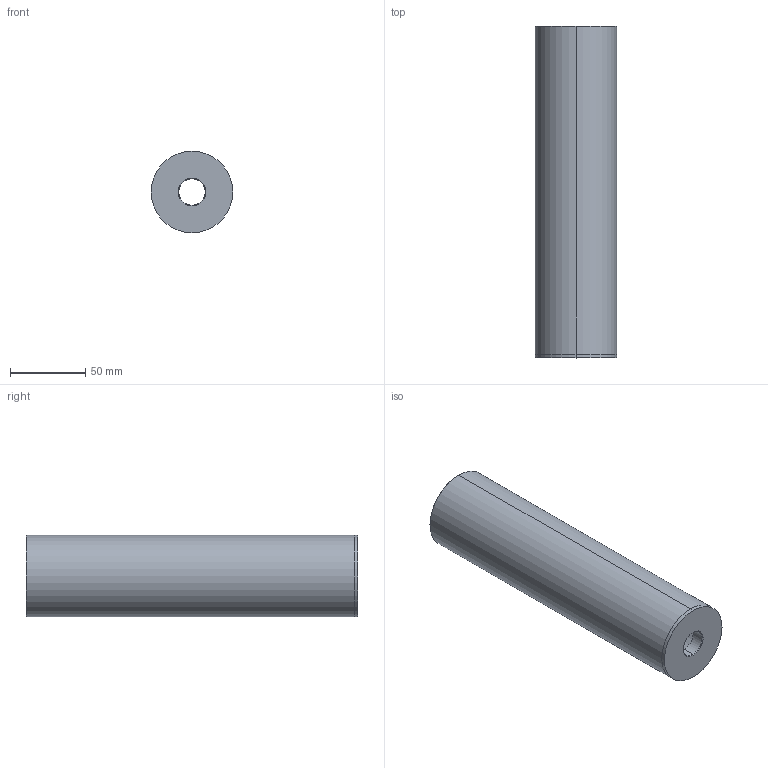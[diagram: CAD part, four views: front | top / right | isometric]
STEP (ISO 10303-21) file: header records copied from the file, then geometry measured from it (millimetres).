
FILE_DESCRIPTION (( 'STEP AP214' ), '1' );
FILE_NAME ('R05_54x220.STEP', '2020-03-20T00:02:48', ( '' ), ( '' ), 'SwSTEP 2.0', 'SolidWorks 2014', '' );
FILE_SCHEMA (( 'AUTOMOTIVE_DESIGN' ));
Length unit declared in the file: millimetre
Products named in the file (1): R05_54x220
Bounding box: 54.02 x 220 x 54.02 mm (x, y, z)
Volume: 199909.2 mm3; surface area: 69594 mm2
Topology: 1 solids, 1 shells, 19 faces, 38 edges, 22 vertices
Faces by surface type: cone 8, cylinder 8, plane 3
Entity records: 554 total; most frequent: DIRECTION 100, CARTESIAN_POINT 80, ORIENTED_EDGE 76, AXIS2_PLACEMENT_3D 42, EDGE_CURVE 38, VERTEX_POINT 22, EDGE_LOOP 22, CIRCLE 22
